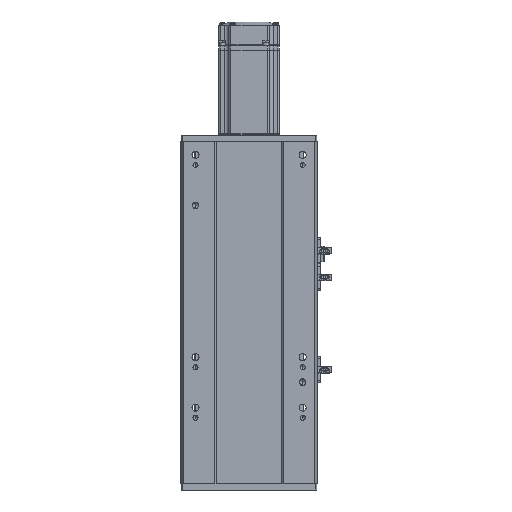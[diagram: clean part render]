
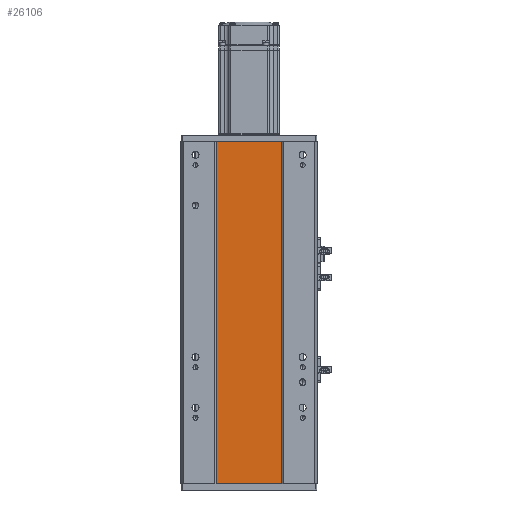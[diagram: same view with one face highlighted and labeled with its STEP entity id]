
A CAD part, front view. The second image highlights one B-rep face of the part: STEP entity #26106.
In plain terms, the highlighted planar face has unit normal (0, -1, 0).
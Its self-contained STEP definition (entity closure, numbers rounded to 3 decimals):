
#1818 = CARTESIAN_POINT ( 'NONE',  ( 2930.715, 228.884, 338.5 ) ) ;
#2161 = LINE ( 'NONE', #29295, #25424 ) ;
#2455 = EDGE_CURVE ( 'NONE', #8421, #27086, #29130, .T. ) ;
#3102 = DIRECTION ( 'NONE',  ( 0., 1., 0. ) ) ;
#3410 = CARTESIAN_POINT ( 'NONE',  ( 2963.091, 228.884, 338.5 ) ) ;
#4033 = VECTOR ( 'NONE', #4523, 1000. ) ;
#4523 = DIRECTION ( 'NONE',  ( 0., 0., -1. ) ) ;
#4868 = DIRECTION ( 'NONE',  ( 1., 0., 0. ) ) ;
#5505 = PLANE ( 'NONE',  #13355 ) ;
#6669 = VERTEX_POINT ( 'NONE', #17683 ) ;
#8421 = VERTEX_POINT ( 'NONE', #19087 ) ;
#10284 = ORIENTED_EDGE ( 'NONE', *, *, #31884, .T. ) ;
#12038 = DIRECTION ( 'NONE',  ( 1., 0., 0. ) ) ;
#13306 = EDGE_LOOP ( 'NONE', ( #10284, #18309, #15741, #24410 ) ) ;
#13355 = AXIS2_PLACEMENT_3D ( 'NONE', #3410, #3102, #27491 ) ;
#15679 = LINE ( 'NONE', #23320, #16362 ) ;
#15741 = ORIENTED_EDGE ( 'NONE', *, *, #2455, .F. ) ;
#16362 = VECTOR ( 'NONE', #31154, 1000. ) ;
#16478 = CARTESIAN_POINT ( 'NONE',  ( 2995.466, 228.884, 338.5 ) ) ;
#17544 = FACE_OUTER_BOUND ( 'NONE', #13306, .T. ) ;
#17683 = CARTESIAN_POINT ( 'NONE',  ( 2995.466, 228.884, 0. ) ) ;
#18309 = ORIENTED_EDGE ( 'NONE', *, *, #26341, .F. ) ;
#19087 = CARTESIAN_POINT ( 'NONE',  ( 2930.715, 228.884, 338.5 ) ) ;
#19450 = CARTESIAN_POINT ( 'NONE',  ( 2995.466, 228.884, 338.5 ) ) ;
#21594 = CARTESIAN_POINT ( 'NONE',  ( 2930.715, 228.884, 0. ) ) ;
#22307 = EDGE_CURVE ( 'NONE', #8421, #28858, #15679, .T. ) ;
#23320 = CARTESIAN_POINT ( 'NONE',  ( 2930.715, 228.884, 338.5 ) ) ;
#24410 = ORIENTED_EDGE ( 'NONE', *, *, #22307, .T. ) ;
#24702 = VECTOR ( 'NONE', #4868, 1000. ) ;
#25424 = VECTOR ( 'NONE', #12038, 1000. ) ;
#26106 = ADVANCED_FACE ( 'NONE', ( #17544 ), #5505, .F. ) ;
#26341 = EDGE_CURVE ( 'NONE', #27086, #6669, #26965, .T. ) ;
#26965 = LINE ( 'NONE', #19450, #4033 ) ;
#27086 = VERTEX_POINT ( 'NONE', #16478 ) ;
#27491 = DIRECTION ( 'NONE',  ( 0., 0., 1. ) ) ;
#28858 = VERTEX_POINT ( 'NONE', #21594 ) ;
#29130 = LINE ( 'NONE', #1818, #24702 ) ;
#29295 = CARTESIAN_POINT ( 'NONE',  ( 2963.091, 228.884, 0. ) ) ;
#31154 = DIRECTION ( 'NONE',  ( 0., 0., -1. ) ) ;
#31884 = EDGE_CURVE ( 'NONE', #28858, #6669, #2161, .T. ) ;
